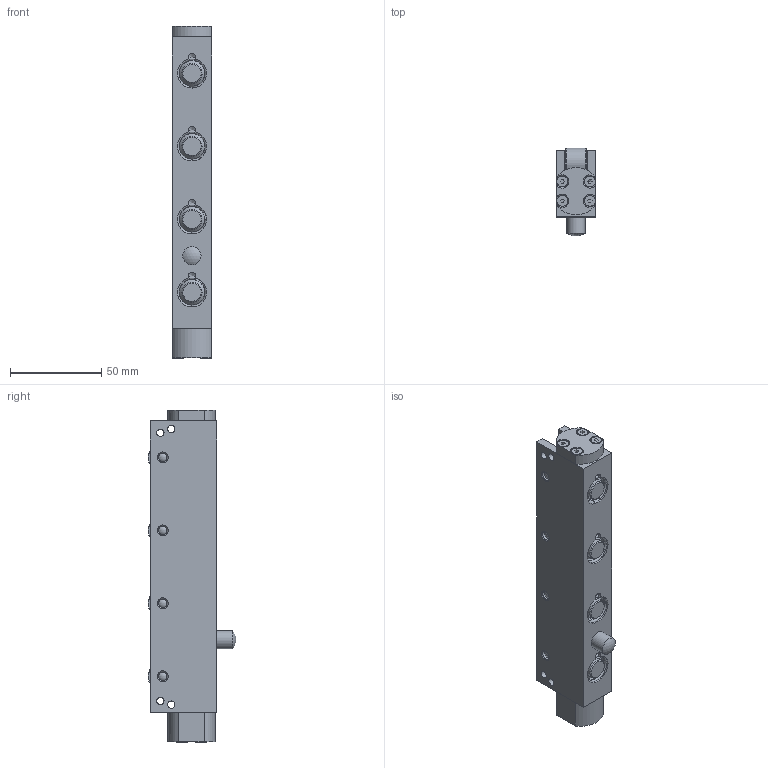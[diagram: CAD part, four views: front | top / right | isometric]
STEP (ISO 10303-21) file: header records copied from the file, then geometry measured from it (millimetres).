
FILE_DESCRIPTION(/* description */ (''),/* implementation_level */ '2;1');
FILE_NAME(/* name */ 'S:\EASCN Vault\Designs\Standard Part\DIE LIFTERS\EHR\EHR- 3D step\EHR22 - 3D step complete serie\EHR22-04.stp',/* time_stamp */ '2019-07-30T15:37:26+08:00',/* author */ ('yue.yang'),/* organization */ (''),/* preprocessor_version */ 'ST-DEVELOPER v17',/* originating_system */ 'Autodesk Inventor 2019',/* authorisation */ '');
FILE_SCHEMA (('AUTOMOTIVE_DESIGN { 1 0 10303 214 3 1 1 }'));
Length unit declared in the file: millimetre
Products named in the file (1): EHR22-04_Shrinkwrap_1
Bounding box: 21.8 x 48.05 x 182 mm (x, y, z)
Volume: 108524.9 mm3; surface area: 44769.6 mm2
Topology: 1 solids, 1 shells, 353 faces, 1019 edges, 703 vertices
Faces by surface type: cylinder 118, plane 118, cone 64, torus 44, sphere 9
Full cylindrical faces by diameter (mm): 3 x9, 3.2 x8, 4 x8, 5 x16, 6 x13, 8.566 x1, 10 x3, 11 x4, 12.5 x8, 13.4 x4, 13.8 x4, 15.95 x8, 16 x12
Entity records: 12838 total; most frequent: CARTESIAN_POINT 2696, DIRECTION 2208, ORIENTED_EDGE 2022, EDGE_CURVE 1011, AXIS2_PLACEMENT_3D 959, VERTEX_POINT 703, CIRCLE 605, EDGE_LOOP 428
